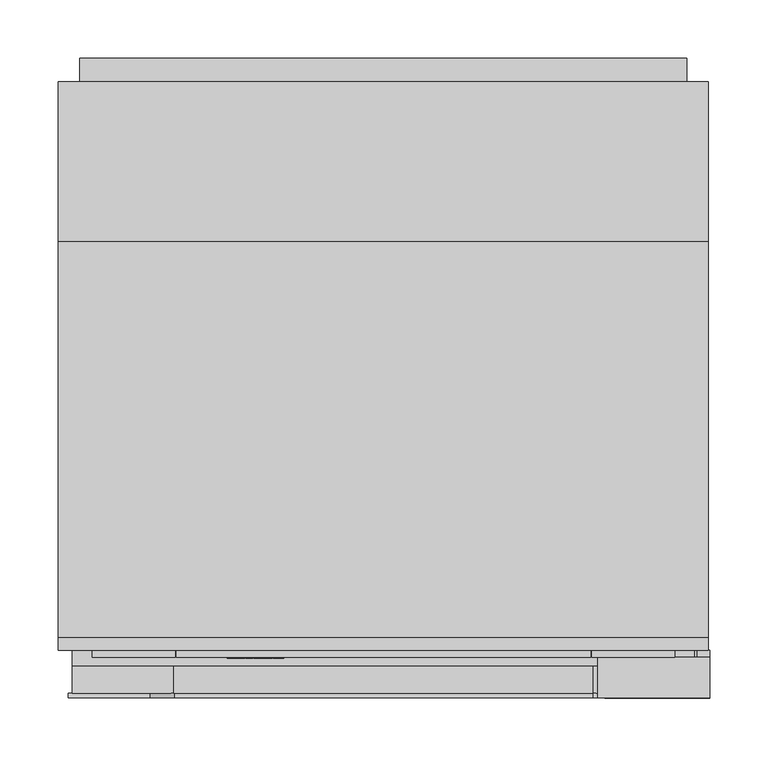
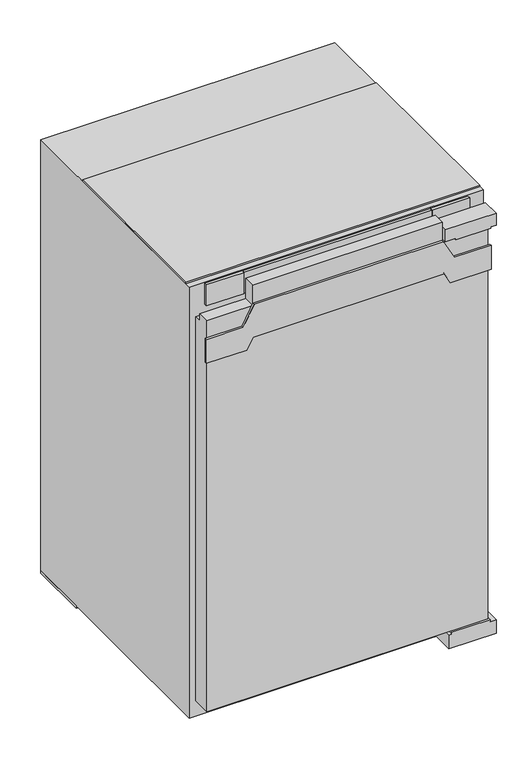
"""IFC4 building model written with IfcOpenShell, lengths in millimetres: proxy geometry, 11717080_OER_K7113F : 36711305_OER_11717080_K7113F."""

from ifc_helpers import new_model, si_unit, point, frame, origin, origin_with_axes, place, context, project, spatial, polyline, circle_curve, ellipse_curve, trimmed, outline, extrude, faceted_brep, source, transform, mapped, element, save
from ifc_brep_helpers import plane_surface, cylinder_surface, revolved_surface, extruded_surface, advanced_brep


def specialty_equipment_01abc3e9(model_context):
    return source(origin(), model_context, "Body", "SolidModel", [
        advanced_brep(
        [(-90.64, 36.0, 841.896), (-90.64, 36.0, 842.704), (-85.288, 36.0, 842.704), (-94.6, 36.0, 842.704), (-92.4, 36.0, 840.0), (-85.424, 36.0, 841.896), (-87.84, 36.0, 841.896), (-89.744, 36.0, 841.0), (-90.64, 36.0, 843.728), (-90.64, 36.0, 844.6), (-89.272, 36.0, 844.6), (-89.272, 36.0, 843.728), (-90.64, 37.0, 841.896), (-89.744, 37.0, 841.0), (-87.84, 37.0, 841.896), (-85.424, 37.0, 841.896), (-92.4, 37.0, 840.0), (-94.6, 37.0, 842.704), (-85.288, 37.0, 842.704), (-90.64, 37.0, 842.704), (-90.64, 37.0, 843.728), (-89.272, 37.0, 843.728), (-89.272, 37.0, 844.6), (-90.64, 37.0, 844.6)],
        [
            (0, 1),
            (1, 2),
            (2, 3, ellipse_curve(frame((-89.944, 36.0, 842.704), z_axis=(0.0, -1.0, 0.0), x_axis=(-1.0, 0.0, 0.0)), 4.656, 3.848)),
            (3, 4, circle_curve(frame((-91.5039564, 36.0, 842.976), z_axis=(0.0, -1.0, 0.0), x_axis=(0.0, 0.0, -1.0)), 3.1079688)),
            (4, 5, circle_curve(frame((-90.0372064, 36.0, 845.088), z_axis=(0.0, -1.0, 0.0), x_axis=(0.0, 0.0, -1.0)), 5.6098607)),
            (5, 6),
            (6, 7, circle_curve(frame((-89.3529412, 36.0, 842.64), z_axis=(0.0, 1.0, 0.0), x_axis=(0.0, 0.0, -1.0)), 1.6859795)),
            (7, 0, circle_curve(frame((-89.744, 36.0, 841.896), z_axis=(0.0, 1.0, 0.0), x_axis=(0.0, 0.0, -1.0)), 0.896)),
            (8, 9),
            (9, 10, circle_curve(frame((-89.956, 36.0, 844.6), z_axis=(0.0, 1.0, 0.0), x_axis=(0.0, 0.0, -1.0)), 0.684)),
            (10, 11),
            (11, 8),
            (12, 13, circle_curve(frame((-89.744, 37.0, 841.896), z_axis=(0.0, -1.0, 0.0), x_axis=(0.0, 0.0, -1.0)), 0.896)),
            (13, 14, circle_curve(frame((-89.3529412, 37.0, 842.64), z_axis=(0.0, -1.0, 0.0), x_axis=(0.0, 0.0, -1.0)), 1.6859795)),
            (14, 15),
            (15, 16, circle_curve(frame((-90.0372064, 37.0, 845.088), z_axis=(0.0, 1.0, 0.0), x_axis=(0.0, 0.0, -1.0)), 5.6098607)),
            (16, 17, circle_curve(frame((-91.5039564, 37.0, 842.976), z_axis=(0.0, 1.0, 0.0), x_axis=(0.0, 0.0, -1.0)), 3.1079688)),
            (17, 18, ellipse_curve(frame((-89.944, 37.0, 842.704), z_axis=(0.0, 1.0, 0.0), x_axis=(-1.0, 0.0, 0.0)), 4.656, 3.848)),
            (18, 19),
            (19, 12),
            (20, 21),
            (21, 22),
            (22, 23, circle_curve(frame((-89.956, 37.0, 844.6), z_axis=(0.0, -1.0, 0.0), x_axis=(0.0, 0.0, -1.0)), 0.684)),
            (23, 20),
            (0, 12),
            (19, 1),
            (18, 2),
            (5, 15),
            (14, 6),
            (17, 3),
            (13, 7),
            (16, 4),
            (8, 20),
            (23, 9),
            (22, 10),
            (21, 11),
        ],
        [
            plane_surface(frame((-90.64, 36.0, 842.704), z_axis=(0.0, -1.0, 0.0), x_axis=(0.0, 0.0, 1.0))),
            plane_surface(frame((-90.64, 37.0, 842.704), z_axis=(0.0, 1.0, 0.0), x_axis=(0.0, 0.0, -1.0))),
            plane_surface(frame((-90.64, 36.0, 841.896), z_axis=(1.0, 0.0, 0.0), x_axis=(0.0, 1.0, 0.0))),
            plane_surface(frame((-90.64, 36.0, 842.704), z_axis=(0.0, 0.0, -1.0), x_axis=(0.0, 1.0, 0.0))),
            plane_surface(frame((-85.424, 36.0, 841.896), z_axis=(0.0, 0.0, 1.0), x_axis=(0.0, 1.0, 0.0))),
            extruded_surface(trimmed(ellipse_curve(frame((-89.944, 38.0, 842.704), z_axis=(0.0, -1.0, 0.0), x_axis=(-1.0, 0.0, 0.0)), 4.656, 3.848), [point((-85.288, 38.0, 842.704))], [point((-94.6, 38.0, 842.704))], True, "CARTESIAN"), (0.0, -1.0, 0.0), 1.0),
            revolved_surface(polyline([(-89.3529412, 37.0, 840.9540205), (-89.3529412, 36.0, 840.9540205)]), (-89.3529412, 37.0, 842.64), (0.0, 1.0, 0.0)),
            revolved_surface(polyline([(-89.744, 37.0, 841.0), (-89.744, 36.0, 841.0)]), (-89.744, 37.0, 841.896), (0.0, 1.0, 0.0)),
            cylinder_surface(frame((-91.5039564, 37.0, 842.976), z_axis=(0.0, -1.0, 0.0), x_axis=(0.0, 0.0, -1.0)), 3.1079688),
            cylinder_surface(frame((-90.0372064, 37.0, 845.088), z_axis=(0.0, -1.0, 0.0), x_axis=(0.0, 0.0, -1.0)), 5.6098607),
            plane_surface(frame((-90.64, 36.0, 843.728), z_axis=(1.0, 0.0, 0.0), x_axis=(0.0, 1.0, 0.0))),
            revolved_surface(polyline([(-89.956, 37.0, 843.916), (-89.956, 36.0, 843.916)]), (-89.956, 37.0, 844.6), (0.0, 1.0, 0.0)),
            plane_surface(frame((-89.272, 36.0, 844.6), z_axis=(-1.0, 0.0, 0.0), x_axis=(0.0, 1.0, 0.0))),
            plane_surface(frame((-89.272, 36.0, 843.728), z_axis=(0.0, 0.0, 1.0), x_axis=(0.0, 1.0, 0.0))),
        ],
        [
            (0, [[1, 2, 3, 4, 5, 6, 7, 8], [9, 10, 11, 12]]),
            (1, [[13, 14, 15, 16, 17, 18, 19, 20], [21, 22, 23, 24]]),
            (2, [[-1, 25, -20, 26]]),
            (3, [[-2, -26, -19, 27]]),
            (4, [[-6, 28, -15, 29]]),
            (5, [[-3, -27, -18, 30]]),
            (6, [[-7, -29, -14, 31]]),
            (7, [[-8, -31, -13, -25]]),
            (8, [[-4, -30, -17, 32]]),
            (9, [[-5, -32, -16, -28]]),
            (10, [[-9, 33, -24, 34]]),
            (11, [[-10, -34, -23, 35]]),
            (12, [[-11, -35, -22, 36]]),
            (13, [[-12, -36, -21, -33]]),
        ],
    ),
        advanced_brep(
        [(-107.336, 36.0, 841.896), (-107.336, 36.0, 842.704), (-101.984, 36.0, 842.704), (-111.296, 36.0, 842.704), (-109.096, 36.0, 840.0), (-102.12, 36.0, 841.896), (-104.536, 36.0, 841.896), (-106.44, 36.0, 841.0), (-107.336, 36.0, 843.728), (-107.336, 36.0, 844.6), (-105.968, 36.0, 844.6), (-105.968, 36.0, 843.728), (-107.336, 37.0, 841.896), (-106.44, 37.0, 841.0), (-104.536, 37.0, 841.896), (-102.12, 37.0, 841.896), (-109.096, 37.0, 840.0), (-111.296, 37.0, 842.704), (-101.984, 37.0, 842.704), (-107.336, 37.0, 842.704), (-107.336, 37.0, 843.728), (-105.968, 37.0, 843.728), (-105.968, 37.0, 844.6), (-107.336, 37.0, 844.6)],
        [
            (0, 1),
            (1, 2),
            (2, 3, ellipse_curve(frame((-106.64, 36.0, 842.704), z_axis=(0.0, -1.0, 0.0), x_axis=(-1.0, 0.0, 0.0)), 4.656, 3.848)),
            (3, 4, circle_curve(frame((-108.1999564, 36.0, 842.976), z_axis=(0.0, -1.0, 0.0), x_axis=(0.0, 0.0, -1.0)), 3.1079688)),
            (4, 5, circle_curve(frame((-106.7332064, 36.0, 845.088), z_axis=(0.0, -1.0, 0.0), x_axis=(0.0, 0.0, -1.0)), 5.6098607)),
            (5, 6),
            (6, 7, circle_curve(frame((-106.0489412, 36.0, 842.64), z_axis=(0.0, 1.0, 0.0), x_axis=(0.0, 0.0, -1.0)), 1.6859795)),
            (7, 0, circle_curve(frame((-106.44, 36.0, 841.896), z_axis=(0.0, 1.0, 0.0), x_axis=(0.0, 0.0, -1.0)), 0.896)),
            (8, 9),
            (9, 10, circle_curve(frame((-106.652, 36.0, 844.6), z_axis=(0.0, 1.0, 0.0), x_axis=(0.0, 0.0, -1.0)), 0.684)),
            (10, 11),
            (11, 8),
            (12, 13, circle_curve(frame((-106.44, 37.0, 841.896), z_axis=(0.0, -1.0, 0.0), x_axis=(0.0, 0.0, -1.0)), 0.896)),
            (13, 14, circle_curve(frame((-106.0489412, 37.0, 842.64), z_axis=(0.0, -1.0, 0.0), x_axis=(0.0, 0.0, -1.0)), 1.6859795)),
            (14, 15),
            (15, 16, circle_curve(frame((-106.7332064, 37.0, 845.088), z_axis=(0.0, 1.0, 0.0), x_axis=(0.0, 0.0, -1.0)), 5.6098607)),
            (16, 17, circle_curve(frame((-108.1999564, 37.0, 842.976), z_axis=(0.0, 1.0, 0.0), x_axis=(0.0, 0.0, -1.0)), 3.1079688)),
            (17, 18, ellipse_curve(frame((-106.64, 37.0, 842.704), z_axis=(0.0, 1.0, 0.0), x_axis=(-1.0, 0.0, 0.0)), 4.656, 3.848)),
            (18, 19),
            (19, 12),
            (20, 21),
            (21, 22),
            (22, 23, circle_curve(frame((-106.652, 37.0, 844.6), z_axis=(0.0, -1.0, 0.0), x_axis=(0.0, 0.0, -1.0)), 0.684)),
            (23, 20),
            (0, 12),
            (19, 1),
            (18, 2),
            (5, 15),
            (14, 6),
            (17, 3),
            (13, 7),
            (16, 4),
            (8, 20),
            (23, 9),
            (22, 10),
            (21, 11),
        ],
        [
            plane_surface(frame((-107.336, 36.0, 842.704), z_axis=(0.0, -1.0, 0.0), x_axis=(0.0, 0.0, 1.0))),
            plane_surface(frame((-107.336, 37.0, 842.704), z_axis=(0.0, 1.0, 0.0), x_axis=(0.0, 0.0, -1.0))),
            plane_surface(frame((-107.336, 36.0, 841.896), z_axis=(1.0, 0.0, 0.0), x_axis=(0.0, 1.0, 0.0))),
            plane_surface(frame((-107.336, 36.0, 842.704), z_axis=(0.0, 0.0, -1.0), x_axis=(0.0, 1.0, 0.0))),
            plane_surface(frame((-102.12, 36.0, 841.896), z_axis=(0.0, 0.0, 1.0), x_axis=(0.0, 1.0, 0.0))),
            extruded_surface(trimmed(ellipse_curve(frame((-106.64, 38.0, 842.704), z_axis=(0.0, -1.0, 0.0), x_axis=(-1.0, 0.0, 0.0)), 4.656, 3.848), [point((-101.984, 38.0, 842.704))], [point((-111.296, 38.0, 842.704))], True, "CARTESIAN"), (0.0, -1.0, 0.0), 1.0),
            revolved_surface(polyline([(-106.0489412, 37.0, 840.9540205), (-106.0489412, 36.0, 840.9540205)]), (-106.0489412, 37.0, 842.64), (0.0, 1.0, 0.0)),
            revolved_surface(polyline([(-106.44, 37.0, 841.0), (-106.44, 36.0, 841.0)]), (-106.44, 37.0, 841.896), (0.0, 1.0, 0.0)),
            cylinder_surface(frame((-108.1999564, 37.0, 842.976), z_axis=(0.0, -1.0, 0.0), x_axis=(0.0, 0.0, -1.0)), 3.1079688),
            cylinder_surface(frame((-106.7332064, 37.0, 845.088), z_axis=(0.0, -1.0, 0.0), x_axis=(0.0, 0.0, -1.0)), 5.6098607),
            plane_surface(frame((-107.336, 36.0, 843.728), z_axis=(1.0, 0.0, 0.0), x_axis=(0.0, 1.0, 0.0))),
            revolved_surface(polyline([(-106.652, 37.0, 843.916), (-106.652, 36.0, 843.916)]), (-106.652, 37.0, 844.6), (0.0, 1.0, 0.0)),
            plane_surface(frame((-105.968, 36.0, 844.6), z_axis=(-1.0, 0.0, 0.0), x_axis=(0.0, 1.0, 0.0))),
            plane_surface(frame((-105.968, 36.0, 843.728), z_axis=(0.0, 0.0, 1.0), x_axis=(0.0, 1.0, 0.0))),
        ],
        [
            (0, [[1, 2, 3, 4, 5, 6, 7, 8], [9, 10, 11, 12]]),
            (1, [[13, 14, 15, 16, 17, 18, 19, 20], [21, 22, 23, 24]]),
            (2, [[-1, 25, -20, 26]]),
            (3, [[-2, -26, -19, 27]]),
            (4, [[-6, 28, -15, 29]]),
            (5, [[-3, -27, -18, 30]]),
            (6, [[-7, -29, -14, 31]]),
            (7, [[-8, -31, -13, -25]]),
            (8, [[-4, -30, -17, 32]]),
            (9, [[-5, -32, -16, -28]]),
            (10, [[-9, 33, -24, 34]]),
            (11, [[-10, -34, -23, 35]]),
            (12, [[-11, -35, -22, 36]]),
            (13, [[-12, -36, -21, -33]]),
        ],
    ),
        extrude(outline(polyline([(847.528, -116.08), (846.232, -115.472), (847.496, -112.76), (848.792, -113.36), (847.528, -116.08)])), frame((0.0, 36.0, 0.0), z_axis=(0.0, 1.0, 0.0), x_axis=(0.0, 0.0, 1.0)), (0.0, 0.0, 1.0), 1.0),
        extrude(outline(polyline([(846.056, -118.056), (844.624, -118.056), (844.624, -117.104), (841.344, -117.104), (841.344, -118.056), (840.0, -118.056), (840.0, -111.744), (841.344, -111.744), (841.344, -112.672), (846.056, -112.672), (846.056, -118.056)])), frame((0.0, 36.0, 0.0), z_axis=(0.0, 1.0, 0.0), x_axis=(0.0, 0.0, 1.0)), (0.0, 0.0, 1.0), 1.0),
        extrude(outline(polyline([(846.696, -101.536), (846.696, -100.576), (841.344, -100.576), (841.344, -101.536), (840.0, -101.536), (840.0, -95.048), (841.344, -95.048), (841.344, -96.032), (848.0, -96.032), (848.0, -101.536), (846.696, -101.536)])), frame((0.0, 36.0, 0.0), z_axis=(0.0, 1.0, 0.0), x_axis=(0.0, 0.0, 1.0)), (0.0, 0.0, 1.0), 1.0),
        extrude(outline(polyline([(846.696, -134.0), (846.696, -133.032), (841.344, -133.032), (841.344, -134.0), (840.0, -134.0), (840.0, -130.48), (841.344, -130.48), (841.344, -131.44), (844.7471247, -131.44), (840.0, -127.864), (844.8152223, -124.272), (841.344, -124.272), (841.344, -125.256), (840.0, -125.256), (840.0, -118.872), (841.344, -118.872), (841.344, -119.888), (846.696, -119.888), (846.696, -118.872), (848.0, -118.872), (848.0, -123.744), (845.0, -126.08), (848.0, -128.424), (848.0, -134.0), (846.696, -134.0)])), frame((0.0, 36.0, 0.0), z_axis=(0.0, 1.0, 0.0), x_axis=(0.0, 0.0, 1.0)), (0.0, 0.0, 1.0), 1.0),
        extrude(outline(polyline([(178.5, 43.0), (249.5, 43.0), (249.5, 37.0), (178.5, 37.0), (178.5, 43.0)])), frame((0.0, 0.0, 825.0), z_axis=(0.0, 0.0, 1.0), x_axis=(1.0, 0.0, 0.0)), (0.0, 0.0, 1.0), 42.0),
        extrude(outline(polyline([(-249.5, 43.0), (-178.5, 43.0), (-178.5, 37.0), (-249.5, 37.0), (-249.5, 43.0)])), frame((0.0, 0.0, 825.0), z_axis=(0.0, 0.0, 1.0), x_axis=(1.0, 0.0, 0.0)), (0.0, 0.0, 1.0), 42.0),
        extrude(outline(polyline([(-13.5, 38.0), (13.5, 38.0), (13.5, 37.0), (-13.5, 37.0), (-13.5, 38.0)])), frame((0.0, 0.0, 838.0), z_axis=(0.0, 0.0, 1.0), x_axis=(1.0, 0.0, 0.0)), (0.0, 0.0, 1.0), 15.0),
        faceted_brep([(177.5, 37.0, 867.0), (-177.5, 37.0, 867.0), (-177.5, 37.0, 825.0), (177.5, 37.0, 825.0), (13.5, 37.0, 853.0), (13.5, 37.0, 838.0), (-13.5, 37.0, 838.0), (-13.5, 37.0, 853.0), (177.5, 43.0, 867.0), (177.5, 43.0, 825.0), (-177.5, 43.0, 825.0), (-177.5, 43.0, 867.0), (13.5, 38.0, 853.0), (-13.5, 38.0, 853.0), (-13.5, 38.0, 838.0), (13.5, 38.0, 838.0)], [[[0, 1, 2, 3], [4, 5, 6, 7]], [[8, 9, 10, 11]], [[0, 3, 9, 8]], [[3, 2, 10, 9]], [[2, 1, 11, 10]], [[1, 0, 8, 11]], [[12, 13, 14, 15]], [[12, 15, 5, 4]], [[15, 14, 6, 5]], [[14, 13, 7, 6]], [[13, 12, 4, 7]]]),
        extrude(outline(polyline([(-260.0, 550.0), (260.0, 550.0), (260.0, 530.0), (-260.0, 530.0), (-260.0, 550.0)])), frame((0.0, 0.0, 99.0), z_axis=(0.0, 0.0, 1.0), x_axis=(1.0, 0.0, 0.0)), (0.0, 0.0, 1.0), 650.0),
        extrude(outline(polyline([(278.5, 393.0), (278.5, 54.0), (-278.5, 54.0), (-278.5, 393.0), (278.5, 393.0)])), frame((0.0, 0.0, 869.0), z_axis=(0.0, 0.0, 1.0), x_axis=(1.0, 0.0, 0.0)), (0.0, 0.0, 1.0), 3.0),
        extrude(outline(polyline([(541.651012, 87.8988246), (541.651012, 89.150839), (548.8850603, 89.150839), (548.8850603, 79.1043073), (541.5027529, 79.1043073), (541.5027529, 80.3585545), (547.6152499, 80.3585545), (547.6152499, 83.6556887), (541.967462, 83.6556887), (541.967462, 84.9162842), (547.6270824, 84.9162842), (547.6270824, 87.8988246), (541.651012, 87.8988246)])), frame((193.5, 0.0, 0.0), z_axis=(1.0, 0.0, 0.0), x_axis=(0.0, 1.0, 0.0)), (0.0, 0.0, 1.0), 1.0),
        extrude(outline(polyline([(539.624075, 89.150839), (539.624075, 79.1043073), (533.3334819, 79.1043073), (533.3334819, 80.3573374), (538.3334819, 80.3573374), (538.3334819, 89.150839), (539.624075, 89.150839)])), frame((193.5, 0.0, 0.0), z_axis=(1.0, 0.0, 0.0), x_axis=(0.0, 1.0, 0.0)), (0.0, 0.0, 1.0), 1.0),
        advanced_brep(
        [(232.0, 530.0, 84.0), (217.0, 530.0, 84.0), (232.0, 549.5, 84.0), (217.0, 534.5, 84.0), (194.5, 549.5, 84.0), (194.5, 534.5, 84.0)],
        [
            (0, 1, circle_curve(frame((224.5, 530.0, 84.0), z_axis=(0.0, -1.0, 0.0), x_axis=(-1.0, 0.0, 0.0)), 7.5)),
            (1, 0, circle_curve(frame((224.5, 530.0, 84.0), z_axis=(0.0, -1.0, 0.0), x_axis=(-1.0, 0.0, 0.0)), 7.5)),
            (0, 2),
            (2, 3, ellipse_curve(frame((224.5, 542.0, 84.0), z_axis=(0.7071067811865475, -0.7071067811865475, 0.0), x_axis=(-0.7071067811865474, -0.7071067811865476, 0.0)), 10.6066017, 7.5)),
            (3, 1),
            (3, 2, ellipse_curve(frame((224.5, 542.0, 84.0), z_axis=(0.7071067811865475, -0.7071067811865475, 0.0), x_axis=(-0.7071067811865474, -0.7071067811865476, 0.0)), 10.6066017, 7.5)),
            (4, 5, circle_curve(frame((194.5, 542.0, 84.0), z_axis=(-1.0, 0.0, 0.0), x_axis=(0.0, -1.0, 0.0)), 7.5)),
            (5, 4, circle_curve(frame((194.5, 542.0, 84.0), z_axis=(-1.0, 0.0, 0.0), x_axis=(0.0, -1.0, 0.0)), 7.5)),
            (2, 4),
            (5, 3),
        ],
        [
            plane_surface(frame((224.5, 530.0, 84.0), z_axis=(0.0, -1.0, 0.0), x_axis=(0.0, 0.0, 1.0))),
            cylinder_surface(frame((224.5, 530.0, 84.0), z_axis=(0.0, -1.0, 0.0), x_axis=(-1.0, 0.0, 0.0)), 7.5),
            plane_surface(frame((194.5, 542.0, 84.0), z_axis=(-1.0, 0.0, 0.0), x_axis=(0.0, 0.0, 1.0))),
            cylinder_surface(frame((224.5, 542.0, 84.0), z_axis=(1.0, 0.0, 0.0), x_axis=(0.0, -1.0, 0.0)), 7.5),
        ],
        [
            (0, [[1, 2]]),
            (1, [[-1, 3, 4, 5]]),
            (1, [[-2, -5, 6, -3]]),
            (2, [[7, 8]]),
            (3, [[-4, 9, -8, 10]]),
            (3, [[-6, -10, -7, -9]]),
        ],
    ),
        extrude(outline(polyline([(-266.0, 162.0), (-237.0, 162.0), (-237.0, 67.0), (-266.0, 67.0), (-266.0, 162.0)])), origin_with_axes(), (0.0, 0.0, 1.0), 5.0),
        extrude(outline(polyline([(237.0, 162.0), (266.0, 162.0), (266.0, 67.0), (237.0, 67.0), (237.0, 162.0)])), origin_with_axes(), (0.0, 0.0, 1.0), 5.0),
        extrude(outline(polyline([(233.5, 490.0), (233.5, 342.0), (-233.5, 342.0), (-233.5, 490.0), (233.5, 490.0)])), frame((0.0, 0.0, 64.0), z_axis=(0.0, 0.0, 1.0), x_axis=(1.0, 0.0, 0.0)), (0.0, 0.0, 1.0), 199.0),
        extrude(outline(polyline([(-233.5, 43.0), (-233.5, 490.0), (233.5, 490.0), (233.5, 43.0), (-233.5, 43.0)])), frame((0.0, 0.0, 275.0), z_axis=(0.0, 0.0, 1.0), x_axis=(1.0, 0.0, 0.0)), (0.0, 0.0, 1.0), 3.0),
        extrude(outline(polyline([(278.5, 530.0), (278.5, 414.0), (-278.5, 414.0), (-278.5, 530.0), (278.5, 530.0)])), origin_with_axes(), (0.0, 0.0, 1.0), 5.0),
        faceted_brep([(278.5, 530.0, 869.0), (-278.5, 530.0, 869.0), (-278.5, 43.0, 869.0), (278.5, 43.0, 869.0), (278.5, 530.0, 5.0), (278.5, 43.0, 5.0), (-278.5, 43.0, 5.0), (-278.5, 530.0, 5.0), (233.5, 43.0, 64.0), (-233.5, 43.0, 64.0), (-233.5, 43.0, 570.0), (-233.5, 43.0, 799.0), (233.5, 43.0, 799.0), (233.5, 43.0, 570.0), (233.5, 490.0, 799.0), (-233.5, 490.0, 799.0), (-233.5, 490.0, 570.0), (-233.5, 490.0, 64.0), (233.5, 490.0, 64.0), (233.5, 490.0, 570.0)], [[[0, 1, 2, 3]], [[4, 5, 6, 7]], [[1, 0, 4, 7]], [[2, 1, 7, 6]], [[3, 2, 6, 5], [8, 9, 10, 11, 12, 13]], [[0, 3, 5, 4]], [[14, 15, 16, 17, 18, 19]], [[18, 8, 13, 12, 14, 19]], [[18, 17, 9, 8]], [[9, 17, 16, 15, 11, 10]], [[15, 14, 12, 11]]]),
        extrude(outline(polyline([(786.0, 270.0), (786.0, 200.0), (825.0, 179.2633322), (825.0, -179.2633322), (786.0, -200.0), (786.0, -270.0), (738.0, -270.0), (738.0, -193.0), (760.0, -181.3023925), (760.0, 181.3023925), (738.0, 193.0), (738.0, 270.0), (786.0, 270.0)])), frame((0.0, 2.0, 0.0), z_axis=(0.0, 1.0, 0.0), x_axis=(0.0, 0.0, 1.0)), (0.0, 0.0, 1.0), 4.0),
        extrude(outline(polyline([(179.5, 6.0), (-179.5, 6.0), (-179.5, 29.0), (179.5, 29.0), (179.5, 6.0)])), frame((0.0, 0.0, 820.0), z_axis=(0.0, 0.0, 1.0), x_axis=(1.0, 0.0, 0.0)), (0.0, 0.0, 1.0), 41.0),
        extrude(outline(polyline([(6.0, 36.0), (6.0, 820.0), (29.0, 820.0), (29.0, 806.0), (43.0, 806.0), (43.0, 36.0), (6.0, 36.0)])), frame((-266.5, 0.0, 0.0), z_axis=(1.0, 0.0, 0.0), x_axis=(0.0, 1.0, 0.0)), (0.0, 0.0, 1.0), 533.0),
        extrude(outline(polyline([(32.0, 189.5), (5.0, 189.5), (5.0, 279.5), (32.0, 279.5), (32.0, 268.5), (36.0, 268.5), (36.0, 195.5), (32.0, 195.5), (32.0, 189.5)])), frame((0.0, 2.0, 0.0), z_axis=(0.0, 1.0, 0.0), x_axis=(0.0, 0.0, 1.0)), (0.0, 0.0, 1.0), 41.0),
        extrude(outline(polyline([(820.0, 203.5), (820.0, 269.5), (823.0, 269.5), (823.0, 279.5), (847.0, 279.5), (847.0, 183.5), (823.0, 183.5), (823.0, 203.5), (820.0, 203.5)])), frame((0.0, 2.0, 0.0), z_axis=(0.0, 1.0, 0.0), x_axis=(0.0, 0.0, 1.0)), (0.0, 0.0, 1.0), 35.0),
    ])


if __name__ == "__main__":
    model = new_model("IFC4")
    model_context = context("Model", 3, world=origin())
    ifc_project = project(units=[si_unit("LENGTHUNIT", "METRE", prefix="MILLI")], contexts=[model_context])
    site = spatial("IfcSite", under=ifc_project)
    building = spatial("IfcBuilding", under=site)
    placement = place(None, origin())
    specialty_equipment_shape = specialty_equipment_01abc3e9(model_context)
    element("IfcBuildingElementProxy", 1, Name="11717080_OER_K7113F : 36711305_OER_11717080_K7113F", ObjectType="11717080_OER_K7113F : 36711305_OER_11717080_K7113F", at=placement, inside=building, context=model_context, shape_type="MappedRepresentation", body=[
        mapped(specialty_equipment_shape, transform((0.0, 0.0, 0.0), x_axis=(1.0, 0.0, 0.0), y_axis=(0.0, 1.0, 0.0), z_axis=(0.0, 0.0, 1.0))),
    ])
    save(model, "model.ifc")
